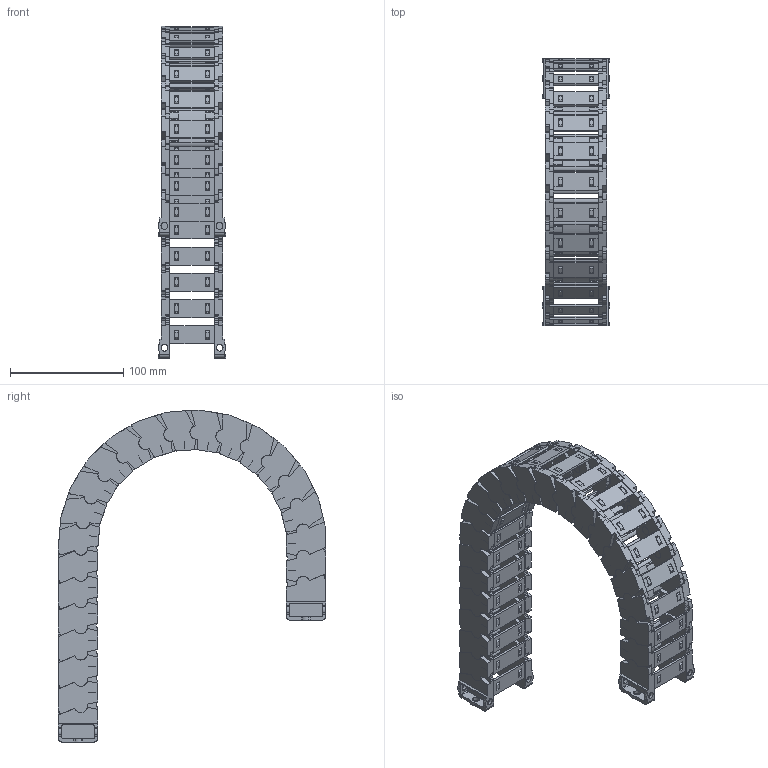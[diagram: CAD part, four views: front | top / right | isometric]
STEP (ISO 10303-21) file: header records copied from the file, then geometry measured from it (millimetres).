
FILE_DESCRIPTION((''),'2;1');
FILE_NAME('JY-25X38-R100_ASM','2022-05-07T10:35:17',('admin'),(''),'CREO PARAMETRIC BY PTC INC, 2021164','CREO PARAMETRIC BY PTC INC, 2021164','');
FILE_SCHEMA(('CONFIG_CONTROL_DESIGN','GEOMETRIC_VALIDATION_PROPERTIES_MIM'));
Length unit declared in the file: millimetre
Products named in the file (11): 25XL-L; 25-35XL-YP; 25XL-R; ASM0001_ASM; 25-LTT-A-L; 25-LTT-A-R; 25XL-LTT-A_ASM; 25-LTT-B-L; 25-LTT-B-R; 25XL-LTT-B_ASM; JY-25X38-R100_ASM
Assembly tree (35 placements, depth 3):
  JY-25X38-R100_ASM
    ASM0001_ASM  x21
      25XL-L
      25-35XL-YP
      25XL-R
    25XL-LTT-A_ASM
      25-LTT-A-L
      25-35XL-YP  x2
      25-LTT-A-R
    25XL-LTT-B_ASM
      25-LTT-B-L
      25-35XL-YP  x2
      25-LTT-B-R
Bounding box: 59.67 x 235.5 x 292.58 mm (x, y, z)
Volume: 344993.1 mm3; surface area: 260208.1 mm2
Topology: 92 solids, 113 shells, 4780 faces, 14283 edges, 9664 vertices
Faces by surface type: plane 3523, cylinder 1215, cone 42
Entity records: 24095 total; most frequent: CARTESIAN_POINT 3126, DIRECTION 3021, ORIENTED_EDGE 2962, EDGE_CURVE 1483, PRESENTATION_STYLE_ASSIGNMENT 1413, STYLED_ITEM 1381, VECTOR 1053, LINE 1053
